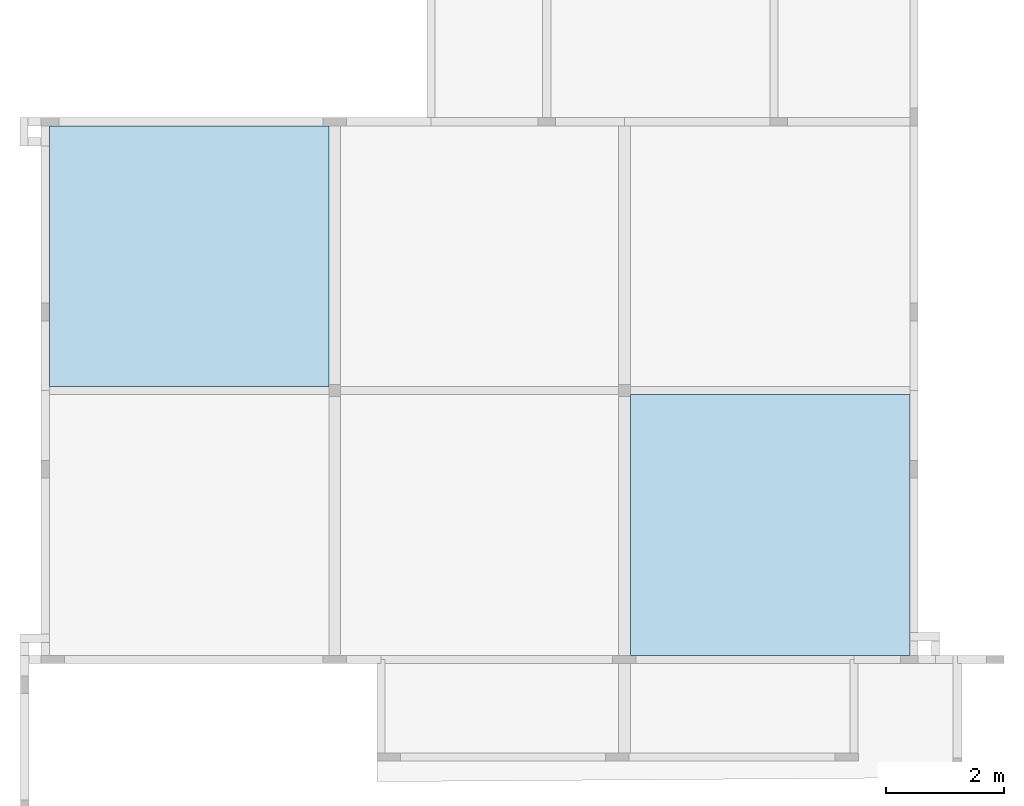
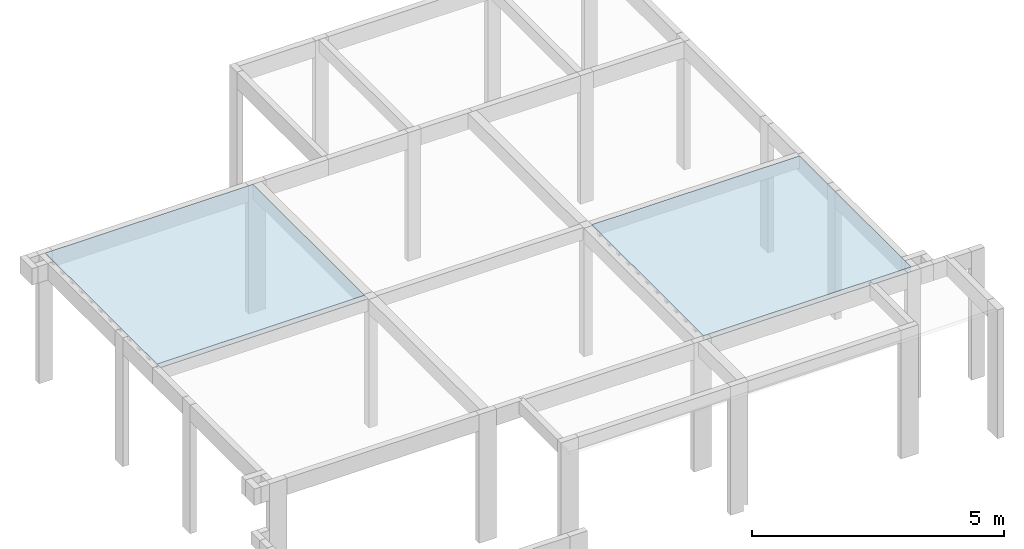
# One storey, part 4 of 7: 2 slabs.
"""IFC4 building model written with IfcOpenShell, lengths in centimetres."""

from ifc_helpers import new_model, si_unit, derived_unit, frame, origin_with_axes, place, context, project, spatial, polyline, outline, extrude, faceted_brep, material, element, save


model = new_model("IFC4")

# Units and contexts
model_context = context("Model", 3, precision=1e-05, world=origin_with_axes(), identifier="Body")
ifc_project = project(units=[si_unit("LENGTHUNIT", "METRE", prefix="CENTI"), si_unit("VOLUMEUNIT", "CUBIC_METRE"), si_unit("AREAUNIT", "SQUARE_METRE"), si_unit("POWERUNIT", "WATT"), si_unit("LUMINOUSFLUXUNIT", "LUMEN"), si_unit("ELECTRICCURRENTUNIT", "AMPERE"), si_unit("PRESSUREUNIT", "PASCAL", prefix="KILO"), si_unit("MASSUNIT", "GRAM", prefix="KILO"), si_unit("PLANEANGLEUNIT", "RADIAN"), derived_unit("VOLUMETRICFLOWRATEUNIT", [(si_unit("LENGTHUNIT", "METRE"), 3), (si_unit("TIMEUNIT", "SECOND"), -1)])], contexts=[model_context])

# Site, building, storey
site_placement = place(None, origin_with_axes())
site = spatial("IfcSite", under=ifc_project, at=site_placement)
building_placement = place(site_placement, frame((0.0, 0.0, 24.0)))
building = spatial("IfcBuilding", under=site, at=building_placement)
storey_placement = place(building_placement, frame((0.0, 0.0, 312.0), z_axis=(0.0, 0.0, 1.0), x_axis=(1.0, 0.0, 0.0)))
storey = spatial("IfcBuildingStorey", under=building, at=storey_placement, Name="RESPALDO", CompositionType="ELEMENT", Elevation=336.0)

# Slabs
ifc_material = material(Name="Concreto")
slab_1_placement = place(storey_placement, frame((271.28, 966.8895, 0.0), z_axis=(0.0, 0.0, 1.0), x_axis=(1.0, 0.0, 0.0)))
element("IfcSlab", 1, at=slab_1_placement, inside=storey, material=ifc_material, Name="L4", PredefinedType="FLOOR", context=model_context, shape_type="SolidModel", body=[
    extrude(outline(polyline([(237.78, -221.63), (237.779, 221.629), (-237.78, 221.629), (-237.78, -221.63), (237.78, -221.63), (237.78, -221.63)])), frame((0.0, 0.0005, -4.0), z_axis=(0.0, 0.0, 1.0), x_axis=(1.0, 0.0, 0.0)), (0.0, 0.0, 1.0), 4.0),
    faceted_brep([(-237.78, -217.6295, -12.0), (237.7795, -217.6295, -12.0), (237.78, -221.6295, -12.0), (-237.78, -221.6295, -12.0), (-237.78, -221.6295, -4.0), (237.78, -221.6295, -4.0), (237.7795, -217.6295, -4.0), (-237.78, -217.6295, -4.0)], [[[0, 1, 2, 3]], [[4, 5, 6, 7]], [[4, 3, 5]], [[3, 2, 5]], [[5, 2, 6]], [[2, 1, 6]], [[6, 1, 7]], [[1, 0, 7]], [[7, 0, 4]], [[0, 3, 4]]]),
    faceted_brep([(-237.78, -216.1295, -12.0), (237.7795, -216.1295, -12.0), (237.7795, -217.6295, -12.0), (-237.78, -217.6295, -12.0), (-237.78, -217.6295, -9.0), (237.7795, -217.6295, -9.0), (237.7795, -216.1295, -9.0), (-237.78, -216.1295, -9.0)], [[[0, 1, 2, 3]], [[4, 5, 6, 7]], [[4, 3, 5]], [[3, 2, 5]], [[5, 2, 6]], [[2, 1, 6]], [[6, 1, 7]], [[1, 0, 7]], [[7, 0, 4]], [[0, 3, 4]]]),
    faceted_brep([(-237.78, -179.6295, -12.0), (237.7795, -179.6295, -12.0), (237.7795, -187.6295, -12.0), (-237.78, -187.6295, -12.0), (-237.78, -187.6295, -4.0), (237.7795, -187.6295, -4.0), (237.7795, -179.6295, -4.0), (-237.78, -179.6295, -4.0)], [[[0, 1, 2, 3]], [[4, 5, 6, 7]], [[4, 3, 5]], [[3, 2, 5]], [[5, 2, 6]], [[2, 1, 6]], [[6, 1, 7]], [[1, 0, 7]], [[7, 0, 4]], [[0, 3, 4]]]),
    faceted_brep([(-237.78, -178.1295, -12.0), (237.7795, -178.1295, -12.0), (237.7795, -179.6295, -12.0), (-237.78, -179.6295, -12.0), (-237.78, -179.6295, -9.0), (237.7795, -179.6295, -9.0), (237.7795, -178.1295, -9.0), (-237.78, -178.1295, -9.0)], [[[0, 1, 2, 3]], [[4, 5, 6, 7]], [[4, 3, 5]], [[3, 2, 5]], [[5, 2, 6]], [[2, 1, 6]], [[6, 1, 7]], [[1, 0, 7]], [[7, 0, 4]], [[0, 3, 4]]]),
    faceted_brep([(-237.78, -187.6295, -12.0), (237.7795, -187.6295, -12.0), (237.7795, -189.1295, -12.0), (-237.78, -189.1295, -12.0), (-237.78, -189.1295, -9.0), (237.7795, -189.1295, -9.0), (237.7795, -187.6295, -9.0), (-237.78, -187.6295, -9.0)], [[[0, 1, 2, 3]], [[4, 5, 6, 7]], [[4, 3, 5]], [[3, 2, 5]], [[5, 2, 6]], [[2, 1, 6]], [[6, 1, 7]], [[1, 0, 7]], [[7, 0, 4]], [[0, 3, 4]]]),
    faceted_brep([(-237.78, -141.6295, -12.0), (237.7795, -141.6295, -12.0), (237.7795, -149.6295, -12.0), (-237.78, -149.6295, -12.0), (-237.78, -149.6295, -4.0), (237.7795, -149.6295, -4.0), (237.7795, -141.6295, -4.0), (-237.78, -141.6295, -4.0)], [[[0, 1, 2, 3]], [[4, 5, 6, 7]], [[4, 3, 5]], [[3, 2, 5]], [[5, 2, 6]], [[2, 1, 6]], [[6, 1, 7]], [[1, 0, 7]], [[7, 0, 4]], [[0, 3, 4]]]),
    faceted_brep([(-237.78, -140.1295, -12.0), (237.7795, -140.1295, -12.0), (237.7795, -141.6295, -12.0), (-237.78, -141.6295, -12.0), (-237.78, -141.6295, -9.0), (237.7795, -141.6295, -9.0), (237.7795, -140.1295, -9.0), (-237.78, -140.1295, -9.0)], [[[0, 1, 2, 3]], [[4, 5, 6, 7]], [[4, 3, 5]], [[3, 2, 5]], [[5, 2, 6]], [[2, 1, 6]], [[6, 1, 7]], [[1, 0, 7]], [[7, 0, 4]], [[0, 3, 4]]]),
    faceted_brep([(-237.78, -149.6295, -12.0), (237.7795, -149.6295, -12.0), (237.7795, -151.1295, -12.0), (-237.78, -151.1295, -12.0), (-237.78, -151.1295, -9.0), (237.7795, -151.1295, -9.0), (237.7795, -149.6295, -9.0), (-237.78, -149.6295, -9.0)], [[[0, 1, 2, 3]], [[4, 5, 6, 7]], [[4, 3, 5]], [[3, 2, 5]], [[5, 2, 6]], [[2, 1, 6]], [[6, 1, 7]], [[1, 0, 7]], [[7, 0, 4]], [[0, 3, 4]]]),
    faceted_brep([(-237.78, -103.6295, -12.0), (237.7795, -103.6295, -12.0), (237.7795, -111.6295, -12.0), (-237.78, -111.6295, -12.0), (-237.78, -111.6295, -4.0), (237.7795, -111.6295, -4.0), (237.7795, -103.6295, -4.0), (-237.78, -103.6295, -4.0)], [[[0, 1, 2, 3]], [[4, 5, 6, 7]], [[4, 3, 5]], [[3, 2, 5]], [[5, 2, 6]], [[2, 1, 6]], [[6, 1, 7]], [[1, 0, 7]], [[7, 0, 4]], [[0, 3, 4]]]),
    faceted_brep([(-237.78, -102.1295, -12.0), (237.7795, -102.1295, -12.0), (237.7795, -103.6295, -12.0), (-237.78, -103.6295, -12.0), (-237.78, -103.6295, -9.0), (237.7795, -103.6295, -9.0), (237.7795, -102.1295, -9.0), (-237.78, -102.1295, -9.0)], [[[0, 1, 2, 3]], [[4, 5, 6, 7]], [[4, 3, 5]], [[3, 2, 5]], [[5, 2, 6]], [[2, 1, 6]], [[6, 1, 7]], [[1, 0, 7]], [[7, 0, 4]], [[0, 3, 4]]]),
    faceted_brep([(-237.78, -111.6295, -12.0), (237.7795, -111.6295, -12.0), (237.7795, -113.1295, -12.0), (-237.78, -113.1295, -12.0), (-237.78, -113.1295, -9.0), (237.7795, -113.1295, -9.0), (237.7795, -111.6295, -9.0), (-237.78, -111.6295, -9.0)], [[[0, 1, 2, 3]], [[4, 5, 6, 7]], [[4, 3, 5]], [[3, 2, 5]], [[5, 2, 6]], [[2, 1, 6]], [[6, 1, 7]], [[1, 0, 7]], [[7, 0, 4]], [[0, 3, 4]]]),
    faceted_brep([(-237.78, -65.6295, -12.0), (237.7795, -65.6295, -12.0), (237.7795, -73.6295, -12.0), (-237.78, -73.6295, -12.0), (-237.78, -73.6295, -4.0), (237.7795, -73.6295, -4.0), (237.7795, -65.6295, -4.0), (-237.78, -65.6295, -4.0)], [[[0, 1, 2, 3]], [[4, 5, 6, 7]], [[4, 3, 5]], [[3, 2, 5]], [[5, 2, 6]], [[2, 1, 6]], [[6, 1, 7]], [[1, 0, 7]], [[7, 0, 4]], [[0, 3, 4]]]),
    faceted_brep([(-237.78, -64.1295, -12.0), (237.7795, -64.1295, -12.0), (237.7795, -65.6295, -12.0), (-237.78, -65.6295, -12.0), (-237.78, -65.6295, -9.0), (237.7795, -65.6295, -9.0), (237.7795, -64.1295, -9.0), (-237.78, -64.1295, -9.0)], [[[0, 1, 2, 3]], [[4, 5, 6, 7]], [[4, 3, 5]], [[3, 2, 5]], [[5, 2, 6]], [[2, 1, 6]], [[6, 1, 7]], [[1, 0, 7]], [[7, 0, 4]], [[0, 3, 4]]]),
    faceted_brep([(-237.78, -73.6295, -12.0), (237.7795, -73.6295, -12.0), (237.7795, -75.1295, -12.0), (-237.78, -75.1295, -12.0), (-237.78, -75.1295, -9.0), (237.7795, -75.1295, -9.0), (237.7795, -73.6295, -9.0), (-237.78, -73.6295, -9.0)], [[[0, 1, 2, 3]], [[4, 5, 6, 7]], [[4, 3, 5]], [[3, 2, 5]], [[5, 2, 6]], [[2, 1, 6]], [[6, 1, 7]], [[1, 0, 7]], [[7, 0, 4]], [[0, 3, 4]]]),
    faceted_brep([(-237.78, -27.6295, -12.0), (237.7795, -27.6295, -12.0), (237.7795, -35.6295, -12.0), (-237.78, -35.6295, -12.0), (-237.78, -35.6295, -4.0), (237.7795, -35.6295, -4.0), (237.7795, -27.6295, -4.0), (-237.78, -27.6295, -4.0)], [[[0, 1, 2, 3]], [[4, 5, 6, 7]], [[4, 3, 5]], [[3, 2, 5]], [[5, 2, 6]], [[2, 1, 6]], [[6, 1, 7]], [[1, 0, 7]], [[7, 0, 4]], [[0, 3, 4]]]),
    faceted_brep([(-237.78, -26.1295, -12.0), (237.7795, -26.1295, -12.0), (237.7795, -27.6295, -12.0), (-237.78, -27.6295, -12.0), (-237.78, -27.6295, -9.0), (237.7795, -27.6295, -9.0), (237.7795, -26.1295, -9.0), (-237.78, -26.1295, -9.0)], [[[0, 1, 2, 3]], [[4, 5, 6, 7]], [[4, 3, 5]], [[3, 2, 5]], [[5, 2, 6]], [[2, 1, 6]], [[6, 1, 7]], [[1, 0, 7]], [[7, 0, 4]], [[0, 3, 4]]]),
    faceted_brep([(-237.78, -35.6295, -12.0), (237.7795, -35.6295, -12.0), (237.7795, -37.1295, -12.0), (-237.78, -37.1295, -12.0), (-237.78, -37.1295, -9.0), (237.7795, -37.1295, -9.0), (237.7795, -35.6295, -9.0), (-237.78, -35.6295, -9.0)], [[[0, 1, 2, 3]], [[4, 5, 6, 7]], [[4, 3, 5]], [[3, 2, 5]], [[5, 2, 6]], [[2, 1, 6]], [[6, 1, 7]], [[1, 0, 7]], [[7, 0, 4]], [[0, 3, 4]]]),
    faceted_brep([(-237.78, 10.3705, -12.0), (237.7795, 10.3705, -12.0), (237.7795, 2.3705, -12.0), (-237.78, 2.3705, -12.0), (-237.78, 2.3705, -4.0), (237.7795, 2.3705, -4.0), (237.7795, 10.3705, -4.0), (-237.78, 10.3705, -4.0)], [[[0, 1, 2, 3]], [[4, 5, 6, 7]], [[4, 3, 5]], [[3, 2, 5]], [[5, 2, 6]], [[2, 1, 6]], [[6, 1, 7]], [[1, 0, 7]], [[7, 0, 4]], [[0, 3, 4]]]),
    faceted_brep([(-237.78, 11.8705, -12.0), (237.7795, 11.8705, -12.0), (237.7795, 10.3705, -12.0), (-237.78, 10.3705, -12.0), (-237.78, 10.3705, -9.0), (237.7795, 10.3705, -9.0), (237.7795, 11.8705, -9.0), (-237.78, 11.8705, -9.0)], [[[0, 1, 2, 3]], [[4, 5, 6, 7]], [[4, 3, 5]], [[3, 2, 5]], [[5, 2, 6]], [[2, 1, 6]], [[6, 1, 7]], [[1, 0, 7]], [[7, 0, 4]], [[0, 3, 4]]]),
    faceted_brep([(-237.78, 2.3705, -12.0), (237.7795, 2.3705, -12.0), (237.7795, 0.8705, -12.0), (-237.78, 0.8705, -12.0), (-237.78, 0.8705, -9.0), (237.7795, 0.8705, -9.0), (237.7795, 2.3705, -9.0), (-237.78, 2.3705, -9.0)], [[[0, 1, 2, 3]], [[4, 5, 6, 7]], [[4, 3, 5]], [[3, 2, 5]], [[5, 2, 6]], [[2, 1, 6]], [[6, 1, 7]], [[1, 0, 7]], [[7, 0, 4]], [[0, 3, 4]]]),
    faceted_brep([(-237.78, 48.3705, -12.0), (237.7795, 48.3705, -12.0), (237.7795, 40.3705, -12.0), (-237.78, 40.3705, -12.0), (-237.78, 40.3705, -4.0), (237.7795, 40.3705, -4.0), (237.7795, 48.3705, -4.0), (-237.78, 48.3705, -4.0)], [[[0, 1, 2, 3]], [[4, 5, 6, 7]], [[4, 3, 5]], [[3, 2, 5]], [[5, 2, 6]], [[2, 1, 6]], [[6, 1, 7]], [[1, 0, 7]], [[7, 0, 4]], [[0, 3, 4]]]),
    faceted_brep([(-237.78, 49.8705, -12.0), (237.7795, 49.8705, -12.0), (237.7795, 48.3705, -12.0), (-237.78, 48.3705, -12.0), (-237.78, 48.3705, -9.0), (237.7795, 48.3705, -9.0), (237.7795, 49.8705, -9.0), (-237.78, 49.8705, -9.0)], [[[0, 1, 2, 3]], [[4, 5, 6, 7]], [[4, 3, 5]], [[3, 2, 5]], [[5, 2, 6]], [[2, 1, 6]], [[6, 1, 7]], [[1, 0, 7]], [[7, 0, 4]], [[0, 3, 4]]]),
    faceted_brep([(-237.78, 40.3705, -12.0), (237.7795, 40.3705, -12.0), (237.7795, 38.8705, -12.0), (-237.78, 38.8705, -12.0), (-237.78, 38.8705, -9.0), (237.7795, 38.8705, -9.0), (237.7795, 40.3705, -9.0), (-237.78, 40.3705, -9.0)], [[[0, 1, 2, 3]], [[4, 5, 6, 7]], [[4, 3, 5]], [[3, 2, 5]], [[5, 2, 6]], [[2, 1, 6]], [[6, 1, 7]], [[1, 0, 7]], [[7, 0, 4]], [[0, 3, 4]]]),
    faceted_brep([(-237.78, 86.3705, -12.0), (237.7795, 86.3705, -12.0), (237.7795, 78.3705, -12.0), (-237.78, 78.3705, -12.0), (-237.78, 78.3705, -4.0), (237.7795, 78.3705, -4.0), (237.7795, 86.3705, -4.0), (-237.78, 86.3705, -4.0)], [[[0, 1, 2, 3]], [[4, 5, 6, 7]], [[4, 3, 5]], [[3, 2, 5]], [[5, 2, 6]], [[2, 1, 6]], [[6, 1, 7]], [[1, 0, 7]], [[7, 0, 4]], [[0, 3, 4]]]),
    faceted_brep([(-237.78, 87.8705, -12.0), (237.7795, 87.8705, -12.0), (237.7795, 86.3705, -12.0), (-237.78, 86.3705, -12.0), (-237.78, 86.3705, -9.0), (237.7795, 86.3705, -9.0), (237.7795, 87.8705, -9.0), (-237.78, 87.8705, -9.0)], [[[0, 1, 2, 3]], [[4, 5, 6, 7]], [[4, 3, 5]], [[3, 2, 5]], [[5, 2, 6]], [[2, 1, 6]], [[6, 1, 7]], [[1, 0, 7]], [[7, 0, 4]], [[0, 3, 4]]]),
    faceted_brep([(-237.78, 78.3705, -12.0), (237.7795, 78.3705, -12.0), (237.7795, 76.8705, -12.0), (-237.78, 76.8705, -12.0), (-237.78, 76.8705, -9.0), (237.7795, 76.8705, -9.0), (237.7795, 78.3705, -9.0), (-237.78, 78.3705, -9.0)], [[[0, 1, 2, 3]], [[4, 5, 6, 7]], [[4, 3, 5]], [[3, 2, 5]], [[5, 2, 6]], [[2, 1, 6]], [[6, 1, 7]], [[1, 0, 7]], [[7, 0, 4]], [[0, 3, 4]]]),
    faceted_brep([(-237.78, 124.3705, -12.0), (237.7795, 124.3705, -12.0), (237.7795, 116.3705, -12.0), (-237.78, 116.3705, -12.0), (-237.78, 116.3705, -4.0), (237.7795, 116.3705, -4.0), (237.7795, 124.3705, -4.0), (-237.78, 124.3705, -4.0)], [[[0, 1, 2, 3]], [[4, 5, 6, 7]], [[4, 3, 5]], [[3, 2, 5]], [[5, 2, 6]], [[2, 1, 6]], [[6, 1, 7]], [[1, 0, 7]], [[7, 0, 4]], [[0, 3, 4]]]),
    faceted_brep([(-237.78, 125.8705, -12.0), (237.7795, 125.8705, -12.0), (237.7795, 124.3705, -12.0), (-237.78, 124.3705, -12.0), (-237.78, 124.3705, -9.0), (237.7795, 124.3705, -9.0), (237.7795, 125.8705, -9.0), (-237.78, 125.8705, -9.0)], [[[0, 1, 2, 3]], [[4, 5, 6, 7]], [[4, 3, 5]], [[3, 2, 5]], [[5, 2, 6]], [[2, 1, 6]], [[6, 1, 7]], [[1, 0, 7]], [[7, 0, 4]], [[0, 3, 4]]]),
    faceted_brep([(-237.78, 116.3705, -12.0), (237.7795, 116.3705, -12.0), (237.7795, 114.8705, -12.0), (-237.78, 114.8705, -12.0), (-237.78, 114.8705, -9.0), (237.7795, 114.8705, -9.0), (237.7795, 116.3705, -9.0), (-237.78, 116.3705, -9.0)], [[[0, 1, 2, 3]], [[4, 5, 6, 7]], [[4, 3, 5]], [[3, 2, 5]], [[5, 2, 6]], [[2, 1, 6]], [[6, 1, 7]], [[1, 0, 7]], [[7, 0, 4]], [[0, 3, 4]]]),
    faceted_brep([(-237.78, 162.3705, -12.0), (237.7795, 162.3705, -12.0), (237.7795, 154.3705, -12.0), (-237.78, 154.3705, -12.0), (-237.78, 154.3705, -4.0), (237.7795, 154.3705, -4.0), (237.7795, 162.3705, -4.0), (-237.78, 162.3705, -4.0)], [[[0, 1, 2, 3]], [[4, 5, 6, 7]], [[4, 3, 5]], [[3, 2, 5]], [[5, 2, 6]], [[2, 1, 6]], [[6, 1, 7]], [[1, 0, 7]], [[7, 0, 4]], [[0, 3, 4]]]),
    faceted_brep([(-237.78, 163.8705, -12.0), (237.7795, 163.8705, -12.0), (237.7795, 162.3705, -12.0), (-237.78, 162.3705, -12.0), (-237.78, 162.3705, -9.0), (237.7795, 162.3705, -9.0), (237.7795, 163.8705, -9.0), (-237.78, 163.8705, -9.0)], [[[0, 1, 2, 3]], [[4, 5, 6, 7]], [[4, 3, 5]], [[3, 2, 5]], [[5, 2, 6]], [[2, 1, 6]], [[6, 1, 7]], [[1, 0, 7]], [[7, 0, 4]], [[0, 3, 4]]]),
    faceted_brep([(-237.78, 154.3705, -12.0), (237.7795, 154.3705, -12.0), (237.7795, 152.8705, -12.0), (-237.78, 152.8705, -12.0), (-237.78, 152.8705, -9.0), (237.7795, 152.8705, -9.0), (237.7795, 154.3705, -9.0), (-237.78, 154.3705, -9.0)], [[[0, 1, 2, 3]], [[4, 5, 6, 7]], [[4, 3, 5]], [[3, 2, 5]], [[5, 2, 6]], [[2, 1, 6]], [[6, 1, 7]], [[1, 0, 7]], [[7, 0, 4]], [[0, 3, 4]]]),
    faceted_brep([(-237.78, 200.3705, -12.0), (237.7795, 200.3705, -12.0), (237.7795, 192.3705, -12.0), (-237.78, 192.3705, -12.0), (-237.78, 192.3705, -4.0), (237.7795, 192.3705, -4.0), (237.7795, 200.3705, -4.0), (-237.78, 200.3705, -4.0)], [[[0, 1, 2, 3]], [[4, 5, 6, 7]], [[4, 3, 5]], [[3, 2, 5]], [[5, 2, 6]], [[2, 1, 6]], [[6, 1, 7]], [[1, 0, 7]], [[7, 0, 4]], [[0, 3, 4]]]),
    faceted_brep([(-237.78, 201.8705, -12.0), (237.7795, 201.8705, -12.0), (237.7795, 200.3705, -12.0), (-237.78, 200.3705, -12.0), (-237.78, 200.3705, -9.0), (237.7795, 200.3705, -9.0), (237.7795, 201.8705, -9.0), (-237.78, 201.8705, -9.0)], [[[0, 1, 2, 3]], [[4, 5, 6, 7]], [[4, 3, 5]], [[3, 2, 5]], [[5, 2, 6]], [[2, 1, 6]], [[6, 1, 7]], [[1, 0, 7]], [[7, 0, 4]], [[0, 3, 4]]]),
    faceted_brep([(-237.78, 192.3705, -12.0), (237.7795, 192.3705, -12.0), (237.7795, 190.8705, -12.0), (-237.78, 190.8705, -12.0), (-237.78, 190.8705, -9.0), (237.7795, 190.8705, -9.0), (237.7795, 192.3705, -9.0), (-237.78, 192.3705, -9.0)], [[[0, 1, 2, 3]], [[4, 5, 6, 7]], [[4, 3, 5]], [[3, 2, 5]], [[5, 2, 6]], [[2, 1, 6]], [[6, 1, 7]], [[1, 0, 7]], [[7, 0, 4]], [[0, 3, 4]]]),
])
slab_2_placement = place(storey_placement, frame((1259.41, 509.63, 0.0), z_axis=(0.0, 0.0, 1.0), x_axis=(1.0, 0.0, 0.0)))
element("IfcSlab", 2, at=slab_2_placement, inside=storey, material=ifc_material, Name="L9", PredefinedType="FLOOR", context=model_context, shape_type="SolidModel", body=[
    extrude(outline(polyline([(237.769, -221.63), (237.78, 109.87), (237.77, 221.63), (-237.78, 221.63), (-237.78, -221.629), (237.769, -221.63), (237.769, -221.63)])), frame((0.0, 0.0, -4.0), z_axis=(0.0, 0.0, 1.0), x_axis=(1.0, 0.0, 0.0)), (0.0, 0.0, 1.0), 4.0),
    faceted_brep([(-237.78, -217.63, -12.0), (237.7695, -217.63, -12.0), (237.7695, -221.6295, -12.0), (-237.78, -221.6295, -12.0), (-237.78, -221.6295, -4.0), (237.7695, -221.6295, -4.0), (237.7695, -217.63, -4.0), (-237.78, -217.63, -4.0)], [[[0, 1, 2, 3]], [[4, 5, 6, 7]], [[4, 3, 5]], [[3, 2, 5]], [[5, 2, 6]], [[2, 1, 6]], [[6, 1, 7]], [[1, 0, 7]], [[7, 0, 4]], [[0, 3, 4]]]),
    faceted_brep([(-237.78, -216.13, -12.0), (237.7695, -216.13, -12.0), (237.7695, -217.63, -12.0), (-237.78, -217.63, -12.0), (-237.78, -217.63, -9.0), (237.7695, -217.63, -9.0), (237.7695, -216.13, -9.0), (-237.78, -216.13, -9.0)], [[[0, 1, 2, 3]], [[4, 5, 6, 7]], [[4, 3, 5]], [[3, 2, 5]], [[5, 2, 6]], [[2, 1, 6]], [[6, 1, 7]], [[1, 0, 7]], [[7, 0, 4]], [[0, 3, 4]]]),
    faceted_brep([(-237.78, -179.63, -12.0), (237.7695, -179.63, -12.0), (237.7695, -187.63, -12.0), (-237.78, -187.63, -12.0), (-237.78, -187.63, -4.0), (237.7695, -187.63, -4.0), (237.7695, -179.63, -4.0), (-237.78, -179.63, -4.0)], [[[0, 1, 2, 3]], [[4, 5, 6, 7]], [[4, 3, 5]], [[3, 2, 5]], [[5, 2, 6]], [[2, 1, 6]], [[6, 1, 7]], [[1, 0, 7]], [[7, 0, 4]], [[0, 3, 4]]]),
    faceted_brep([(-237.78, -178.13, -12.0), (237.7695, -178.13, -12.0), (237.7695, -179.63, -12.0), (-237.78, -179.63, -12.0), (-237.78, -179.63, -9.0), (237.7695, -179.63, -9.0), (237.7695, -178.13, -9.0), (-237.78, -178.13, -9.0)], [[[0, 1, 2, 3]], [[4, 5, 6, 7]], [[4, 3, 5]], [[3, 2, 5]], [[5, 2, 6]], [[2, 1, 6]], [[6, 1, 7]], [[1, 0, 7]], [[7, 0, 4]], [[0, 3, 4]]]),
    faceted_brep([(-237.78, -187.63, -12.0), (237.7695, -187.63, -12.0), (237.7695, -189.13, -12.0), (-237.78, -189.13, -12.0), (-237.78, -189.13, -9.0), (237.7695, -189.13, -9.0), (237.7695, -187.63, -9.0), (-237.78, -187.63, -9.0)], [[[0, 1, 2, 3]], [[4, 5, 6, 7]], [[4, 3, 5]], [[3, 2, 5]], [[5, 2, 6]], [[2, 1, 6]], [[6, 1, 7]], [[1, 0, 7]], [[7, 0, 4]], [[0, 3, 4]]]),
    faceted_brep([(-237.78, -141.63, -12.0), (237.7695, -141.63, -12.0), (237.7695, -149.63, -12.0), (-237.78, -149.63, -12.0), (-237.78, -149.63, -4.0), (237.7695, -149.63, -4.0), (237.7695, -141.63, -4.0), (-237.78, -141.63, -4.0)], [[[0, 1, 2, 3]], [[4, 5, 6, 7]], [[4, 3, 5]], [[3, 2, 5]], [[5, 2, 6]], [[2, 1, 6]], [[6, 1, 7]], [[1, 0, 7]], [[7, 0, 4]], [[0, 3, 4]]]),
    faceted_brep([(-237.78, -140.13, -12.0), (237.7695, -140.13, -12.0), (237.7695, -141.63, -12.0), (-237.78, -141.63, -12.0), (-237.78, -141.63, -9.0), (237.7695, -141.63, -9.0), (237.7695, -140.13, -9.0), (-237.78, -140.13, -9.0)], [[[0, 1, 2, 3]], [[4, 5, 6, 7]], [[4, 3, 5]], [[3, 2, 5]], [[5, 2, 6]], [[2, 1, 6]], [[6, 1, 7]], [[1, 0, 7]], [[7, 0, 4]], [[0, 3, 4]]]),
    faceted_brep([(-237.78, -149.63, -12.0), (237.7695, -149.63, -12.0), (237.7695, -151.13, -12.0), (-237.78, -151.13, -12.0), (-237.78, -151.13, -9.0), (237.7695, -151.13, -9.0), (237.7695, -149.63, -9.0), (-237.78, -149.63, -9.0)], [[[0, 1, 2, 3]], [[4, 5, 6, 7]], [[4, 3, 5]], [[3, 2, 5]], [[5, 2, 6]], [[2, 1, 6]], [[6, 1, 7]], [[1, 0, 7]], [[7, 0, 4]], [[0, 3, 4]]]),
    faceted_brep([(-237.78, -103.63, -12.0), (237.7695, -103.63, -12.0), (237.7695, -111.63, -12.0), (-237.78, -111.63, -12.0), (-237.78, -111.63, -4.0), (237.7695, -111.63, -4.0), (237.7695, -103.63, -4.0), (-237.78, -103.63, -4.0)], [[[0, 1, 2, 3]], [[4, 5, 6, 7]], [[4, 3, 5]], [[3, 2, 5]], [[5, 2, 6]], [[2, 1, 6]], [[6, 1, 7]], [[1, 0, 7]], [[7, 0, 4]], [[0, 3, 4]]]),
    faceted_brep([(-237.78, -102.13, -12.0), (237.7695, -102.13, -12.0), (237.7695, -103.63, -12.0), (-237.78, -103.63, -12.0), (-237.78, -103.63, -9.0), (237.7695, -103.63, -9.0), (237.7695, -102.13, -9.0), (-237.78, -102.13, -9.0)], [[[0, 1, 2, 3]], [[4, 5, 6, 7]], [[4, 3, 5]], [[3, 2, 5]], [[5, 2, 6]], [[2, 1, 6]], [[6, 1, 7]], [[1, 0, 7]], [[7, 0, 4]], [[0, 3, 4]]]),
    faceted_brep([(-237.78, -111.63, -12.0), (237.7695, -111.63, -12.0), (237.7695, -113.13, -12.0), (-237.78, -113.13, -12.0), (-237.78, -113.13, -9.0), (237.7695, -113.13, -9.0), (237.7695, -111.63, -9.0), (-237.78, -111.63, -9.0)], [[[0, 1, 2, 3]], [[4, 5, 6, 7]], [[4, 3, 5]], [[3, 2, 5]], [[5, 2, 6]], [[2, 1, 6]], [[6, 1, 7]], [[1, 0, 7]], [[7, 0, 4]], [[0, 3, 4]]]),
    faceted_brep([(-237.78, -65.63, -12.0), (237.7695, -65.63, -12.0), (237.7695, -73.63, -12.0), (-237.78, -73.63, -12.0), (-237.78, -73.63, -4.0), (237.7695, -73.63, -4.0), (237.7695, -65.63, -4.0), (-237.78, -65.63, -4.0)], [[[0, 1, 2, 3]], [[4, 5, 6, 7]], [[4, 3, 5]], [[3, 2, 5]], [[5, 2, 6]], [[2, 1, 6]], [[6, 1, 7]], [[1, 0, 7]], [[7, 0, 4]], [[0, 3, 4]]]),
    faceted_brep([(-237.78, -64.13, -12.0), (237.7695, -64.13, -12.0), (237.7695, -65.63, -12.0), (-237.78, -65.63, -12.0), (-237.78, -65.63, -9.0), (237.7695, -65.63, -9.0), (237.7695, -64.13, -9.0), (-237.78, -64.13, -9.0)], [[[0, 1, 2, 3]], [[4, 5, 6, 7]], [[4, 3, 5]], [[3, 2, 5]], [[5, 2, 6]], [[2, 1, 6]], [[6, 1, 7]], [[1, 0, 7]], [[7, 0, 4]], [[0, 3, 4]]]),
    faceted_brep([(-237.78, -73.63, -12.0), (237.7695, -73.63, -12.0), (237.7695, -75.13, -12.0), (-237.78, -75.13, -12.0), (-237.78, -75.13, -9.0), (237.7695, -75.13, -9.0), (237.7695, -73.63, -9.0), (-237.78, -73.63, -9.0)], [[[0, 1, 2, 3]], [[4, 5, 6, 7]], [[4, 3, 5]], [[3, 2, 5]], [[5, 2, 6]], [[2, 1, 6]], [[6, 1, 7]], [[1, 0, 7]], [[7, 0, 4]], [[0, 3, 4]]]),
    faceted_brep([(-237.78, -27.63, -12.0), (237.7695, -27.63, -12.0), (237.7695, -35.63, -12.0), (-237.78, -35.63, -12.0), (-237.78, -35.63, -4.0), (237.7695, -35.63, -4.0), (237.7695, -27.63, -4.0), (-237.78, -27.63, -4.0)], [[[0, 1, 2, 3]], [[4, 5, 6, 7]], [[4, 3, 5]], [[3, 2, 5]], [[5, 2, 6]], [[2, 1, 6]], [[6, 1, 7]], [[1, 0, 7]], [[7, 0, 4]], [[0, 3, 4]]]),
    faceted_brep([(-237.78, -26.13, -12.0), (237.7695, -26.13, -12.0), (237.7695, -27.63, -12.0), (-237.78, -27.63, -12.0), (-237.78, -27.63, -9.0), (237.7695, -27.63, -9.0), (237.7695, -26.13, -9.0), (-237.78, -26.13, -9.0)], [[[0, 1, 2, 3]], [[4, 5, 6, 7]], [[4, 3, 5]], [[3, 2, 5]], [[5, 2, 6]], [[2, 1, 6]], [[6, 1, 7]], [[1, 0, 7]], [[7, 0, 4]], [[0, 3, 4]]]),
    faceted_brep([(-237.78, -35.63, -12.0), (237.7695, -35.63, -12.0), (237.7695, -37.13, -12.0), (-237.78, -37.13, -12.0), (-237.78, -37.13, -9.0), (237.7695, -37.13, -9.0), (237.7695, -35.63, -9.0), (-237.78, -35.63, -9.0)], [[[0, 1, 2, 3]], [[4, 5, 6, 7]], [[4, 3, 5]], [[3, 2, 5]], [[5, 2, 6]], [[2, 1, 6]], [[6, 1, 7]], [[1, 0, 7]], [[7, 0, 4]], [[0, 3, 4]]]),
    faceted_brep([(-237.78, 10.37, -12.0), (237.7695, 10.37, -12.0), (237.7695, 2.37, -12.0), (-237.78, 2.37, -12.0), (-237.78, 2.37, -4.0), (237.7695, 2.37, -4.0), (237.7695, 10.37, -4.0), (-237.78, 10.37, -4.0)], [[[0, 1, 2, 3]], [[4, 5, 6, 7]], [[4, 3, 5]], [[3, 2, 5]], [[5, 2, 6]], [[2, 1, 6]], [[6, 1, 7]], [[1, 0, 7]], [[7, 0, 4]], [[0, 3, 4]]]),
    faceted_brep([(-237.78, 11.87, -12.0), (237.7695, 11.87, -12.0), (237.7695, 10.37, -12.0), (-237.78, 10.37, -12.0), (-237.78, 10.37, -9.0), (237.7695, 10.37, -9.0), (237.7695, 11.87, -9.0), (-237.78, 11.87, -9.0)], [[[0, 1, 2, 3]], [[4, 5, 6, 7]], [[4, 3, 5]], [[3, 2, 5]], [[5, 2, 6]], [[2, 1, 6]], [[6, 1, 7]], [[1, 0, 7]], [[7, 0, 4]], [[0, 3, 4]]]),
    faceted_brep([(-237.78, 2.37, -12.0), (237.7695, 2.37, -12.0), (237.7695, 0.87, -12.0), (-237.78, 0.87, -12.0), (-237.78, 0.87, -9.0), (237.7695, 0.87, -9.0), (237.7695, 2.37, -9.0), (-237.78, 2.37, -9.0)], [[[0, 1, 2, 3]], [[4, 5, 6, 7]], [[4, 3, 5]], [[3, 2, 5]], [[5, 2, 6]], [[2, 1, 6]], [[6, 1, 7]], [[1, 0, 7]], [[7, 0, 4]], [[0, 3, 4]]]),
    faceted_brep([(-237.78, 48.37, -12.0), (237.7695, 48.37, -12.0), (237.7695, 40.37, -12.0), (-237.78, 40.37, -12.0), (-237.78, 40.37, -4.0), (237.7695, 40.37, -4.0), (237.7695, 48.37, -4.0), (-237.78, 48.37, -4.0)], [[[0, 1, 2, 3]], [[4, 5, 6, 7]], [[4, 3, 5]], [[3, 2, 5]], [[5, 2, 6]], [[2, 1, 6]], [[6, 1, 7]], [[1, 0, 7]], [[7, 0, 4]], [[0, 3, 4]]]),
    faceted_brep([(-237.78, 49.87, -12.0), (237.7695, 49.87, -12.0), (237.7695, 48.37, -12.0), (-237.78, 48.37, -12.0), (-237.78, 48.37, -9.0), (237.7695, 48.37, -9.0), (237.7695, 49.87, -9.0), (-237.78, 49.87, -9.0)], [[[0, 1, 2, 3]], [[4, 5, 6, 7]], [[4, 3, 5]], [[3, 2, 5]], [[5, 2, 6]], [[2, 1, 6]], [[6, 1, 7]], [[1, 0, 7]], [[7, 0, 4]], [[0, 3, 4]]]),
    faceted_brep([(-237.78, 40.37, -12.0), (237.7695, 40.37, -12.0), (237.7695, 38.87, -12.0), (-237.78, 38.87, -12.0), (-237.78, 38.87, -9.0), (237.7695, 38.87, -9.0), (237.7695, 40.37, -9.0), (-237.78, 40.37, -9.0)], [[[0, 1, 2, 3]], [[4, 5, 6, 7]], [[4, 3, 5]], [[3, 2, 5]], [[5, 2, 6]], [[2, 1, 6]], [[6, 1, 7]], [[1, 0, 7]], [[7, 0, 4]], [[0, 3, 4]]]),
    faceted_brep([(-237.78, 86.37, -12.0), (237.7695, 86.37, -12.0), (237.7695, 78.37, -12.0), (-237.78, 78.37, -12.0), (-237.78, 78.37, -4.0), (237.7695, 78.37, -4.0), (237.7695, 86.37, -4.0), (-237.78, 86.37, -4.0)], [[[0, 1, 2, 3]], [[4, 5, 6, 7]], [[4, 3, 5]], [[3, 2, 5]], [[5, 2, 6]], [[2, 1, 6]], [[6, 1, 7]], [[1, 0, 7]], [[7, 0, 4]], [[0, 3, 4]]]),
    faceted_brep([(-237.78, 87.87, -12.0), (237.7695, 87.87, -12.0), (237.7695, 86.37, -12.0), (-237.78, 86.37, -12.0), (-237.78, 86.37, -9.0), (237.7695, 86.37, -9.0), (237.7695, 87.87, -9.0), (-237.78, 87.87, -9.0)], [[[0, 1, 2, 3]], [[4, 5, 6, 7]], [[4, 3, 5]], [[3, 2, 5]], [[5, 2, 6]], [[2, 1, 6]], [[6, 1, 7]], [[1, 0, 7]], [[7, 0, 4]], [[0, 3, 4]]]),
    faceted_brep([(-237.78, 78.37, -12.0), (237.7695, 78.37, -12.0), (237.7695, 76.87, -12.0), (-237.78, 76.87, -12.0), (-237.78, 76.87, -9.0), (237.7695, 76.87, -9.0), (237.7695, 78.37, -9.0), (-237.78, 78.37, -9.0)], [[[0, 1, 2, 3]], [[4, 5, 6, 7]], [[4, 3, 5]], [[3, 2, 5]], [[5, 2, 6]], [[2, 1, 6]], [[6, 1, 7]], [[1, 0, 7]], [[7, 0, 4]], [[0, 3, 4]]]),
    faceted_brep([(-237.78, 124.37, -12.0), (237.7695, 124.37, -12.0), (237.7695, 116.37, -12.0), (-237.78, 116.37, -12.0), (-237.78, 116.37, -4.0), (237.7695, 116.37, -4.0), (237.7695, 124.37, -4.0), (-237.78, 124.37, -4.0)], [[[0, 1, 2, 3]], [[4, 5, 6, 7]], [[4, 3, 5]], [[3, 2, 5]], [[5, 2, 6]], [[2, 1, 6]], [[6, 1, 7]], [[1, 0, 7]], [[7, 0, 4]], [[0, 3, 4]]]),
    faceted_brep([(-237.78, 125.87, -12.0), (237.7695, 125.87, -12.0), (237.7695, 124.37, -12.0), (-237.78, 124.37, -12.0), (-237.78, 124.37, -9.0), (237.7695, 124.37, -9.0), (237.7695, 125.87, -9.0), (-237.78, 125.87, -9.0)], [[[0, 1, 2, 3]], [[4, 5, 6, 7]], [[4, 3, 5]], [[3, 2, 5]], [[5, 2, 6]], [[2, 1, 6]], [[6, 1, 7]], [[1, 0, 7]], [[7, 0, 4]], [[0, 3, 4]]]),
    faceted_brep([(-237.78, 116.37, -12.0), (237.7695, 116.37, -12.0), (237.7695, 114.87, -12.0), (-237.78, 114.87, -12.0), (-237.78, 114.87, -9.0), (237.7695, 114.87, -9.0), (237.7695, 116.37, -9.0), (-237.78, 116.37, -9.0)], [[[0, 1, 2, 3]], [[4, 5, 6, 7]], [[4, 3, 5]], [[3, 2, 5]], [[5, 2, 6]], [[2, 1, 6]], [[6, 1, 7]], [[1, 0, 7]], [[7, 0, 4]], [[0, 3, 4]]]),
    faceted_brep([(-237.78, 162.37, -12.0), (237.7695, 162.37, -12.0), (237.7695, 154.37, -12.0), (-237.78, 154.37, -12.0), (-237.78, 154.37, -4.0), (237.7695, 154.37, -4.0), (237.7695, 162.37, -4.0), (-237.78, 162.37, -4.0)], [[[0, 1, 2, 3]], [[4, 5, 6, 7]], [[4, 3, 5]], [[3, 2, 5]], [[5, 2, 6]], [[2, 1, 6]], [[6, 1, 7]], [[1, 0, 7]], [[7, 0, 4]], [[0, 3, 4]]]),
    faceted_brep([(-237.78, 163.87, -12.0), (237.7695, 163.87, -12.0), (237.7695, 162.37, -12.0), (-237.78, 162.37, -12.0), (-237.78, 162.37, -9.0), (237.7695, 162.37, -9.0), (237.7695, 163.87, -9.0), (-237.78, 163.87, -9.0)], [[[0, 1, 2, 3]], [[4, 5, 6, 7]], [[4, 3, 5]], [[3, 2, 5]], [[5, 2, 6]], [[2, 1, 6]], [[6, 1, 7]], [[1, 0, 7]], [[7, 0, 4]], [[0, 3, 4]]]),
    faceted_brep([(-237.78, 154.37, -12.0), (237.7695, 154.37, -12.0), (237.7695, 152.87, -12.0), (-237.78, 152.87, -12.0), (-237.78, 152.87, -9.0), (237.7695, 152.87, -9.0), (237.7695, 154.37, -9.0), (-237.78, 154.37, -9.0)], [[[0, 1, 2, 3]], [[4, 5, 6, 7]], [[4, 3, 5]], [[3, 2, 5]], [[5, 2, 6]], [[2, 1, 6]], [[6, 1, 7]], [[1, 0, 7]], [[7, 0, 4]], [[0, 3, 4]]]),
    faceted_brep([(-237.78, 200.37, -12.0), (237.7695, 200.37, -12.0), (237.7695, 192.37, -12.0), (-237.78, 192.37, -12.0), (-237.78, 192.37, -4.0), (237.7695, 192.37, -4.0), (237.7695, 200.37, -4.0), (-237.78, 200.37, -4.0)], [[[0, 1, 2, 3]], [[4, 5, 6, 7]], [[4, 3, 5]], [[3, 2, 5]], [[5, 2, 6]], [[2, 1, 6]], [[6, 1, 7]], [[1, 0, 7]], [[7, 0, 4]], [[0, 3, 4]]]),
    faceted_brep([(-237.78, 201.87, -12.0), (237.7695, 201.87, -12.0), (237.7695, 200.37, -12.0), (-237.78, 200.37, -12.0), (-237.78, 200.37, -9.0), (237.7695, 200.37, -9.0), (237.7695, 201.87, -9.0), (-237.78, 201.87, -9.0)], [[[0, 1, 2, 3]], [[4, 5, 6, 7]], [[4, 3, 5]], [[3, 2, 5]], [[5, 2, 6]], [[2, 1, 6]], [[6, 1, 7]], [[1, 0, 7]], [[7, 0, 4]], [[0, 3, 4]]]),
    faceted_brep([(-237.78, 192.37, -12.0), (237.7695, 192.37, -12.0), (237.7695, 190.87, -12.0), (-237.78, 190.87, -12.0), (-237.78, 190.87, -9.0), (237.7695, 190.87, -9.0), (237.7695, 192.37, -9.0), (-237.78, 192.37, -9.0)], [[[0, 1, 2, 3]], [[4, 5, 6, 7]], [[4, 3, 5]], [[3, 2, 5]], [[5, 2, 6]], [[2, 1, 6]], [[6, 1, 7]], [[1, 0, 7]], [[7, 0, 4]], [[0, 3, 4]]]),
])

save(model, "model.ifc")
